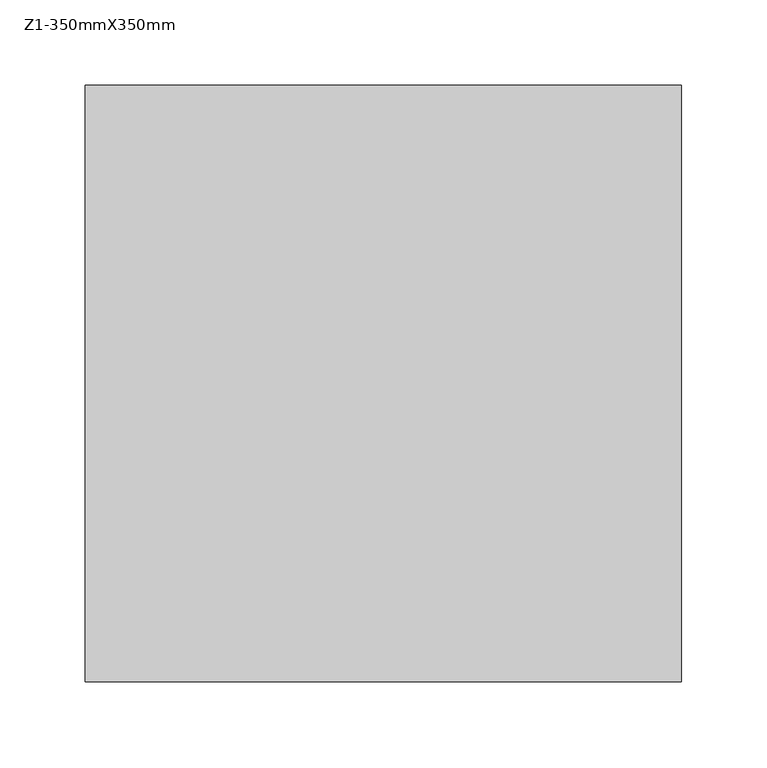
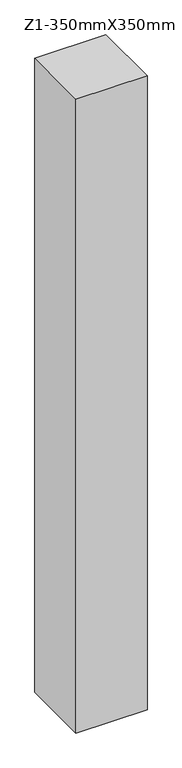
"""IFC4 building model written with IfcOpenShell, lengths in millimetres: column geometry, 混凝土 - 矩形 - 柱 : Z1-350mmX350mm."""

from ifc_helpers import new_model, si_unit, frame, origin, place, context, project, spatial, polyline, outline, extrude, source, transform, mapped, element, save


def z1_350mmx350mm_cf0e5e6a(model_context):
    return source(origin(), model_context, "Body", "SweptSolid", [
        extrude(outline(polyline([(175.0, -175.0), (-175.0, -175.0), (-175.0, 175.0), (175.0, 175.0), (175.0, -175.0)])), frame((0.0, 0.0, 3900.0), z_axis=(0.0, 0.0, 1.0), x_axis=(1.0, 0.0, 0.0)), (0.0, 0.0, 1.0), 3300.0),
    ])


if __name__ == "__main__":
    model = new_model("IFC4")
    model_context = context("Model", 3, world=origin())
    ifc_project = project(units=[si_unit("LENGTHUNIT", "METRE", prefix="MILLI")], contexts=[model_context])
    site = spatial("IfcSite", under=ifc_project)
    building = spatial("IfcBuilding", under=site)
    placement = place(None, origin())
    z1_350mmx350mm_shape = z1_350mmx350mm_cf0e5e6a(model_context)
    element("IfcColumn", 1, ObjectType="混凝土 - 矩形 - 柱 : Z1-350mmX350mm", at=placement, inside=building, context=model_context, shape_type="MappedRepresentation", body=[
        mapped(z1_350mmx350mm_shape, transform((0.0, 0.0, 0.0), x_axis=(1.0, 0.0, 0.0), y_axis=(0.0, 1.0, 0.0), z_axis=(0.0, 0.0, 1.0))),
    ])
    save(model, "model.ifc")
